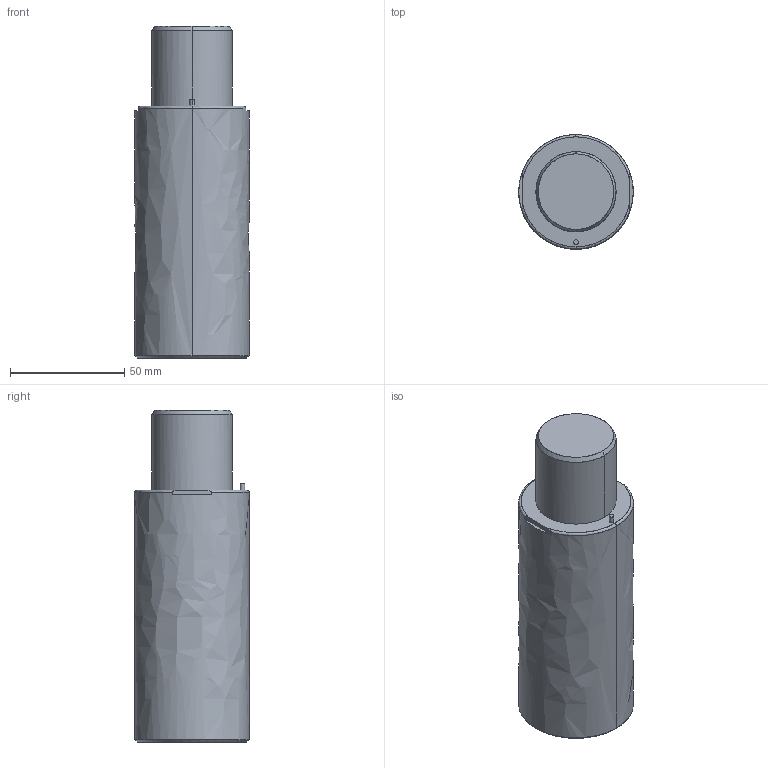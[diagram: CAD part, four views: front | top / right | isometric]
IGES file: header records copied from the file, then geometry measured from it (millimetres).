
Global section: file name: E:\UnigraphicsGraphicData\MISUMI_PRESS-PARTS\IGES\3d_gsx50-32_03983_r00.igs; native system: NX V5.0; preprocessor: UGS NX IGES V5.0; author: MISUMI; date: 20110105.160828; units: millimetre
Bounding box: 50 x 50 x 145 mm (x, y, z)
Surface area: 26522.9 mm2 (no closed solid volume)
Topology: 0 solids, 0 shells, 59 faces, 428 edges, 420 vertices
Faces by surface type: bspline 59
